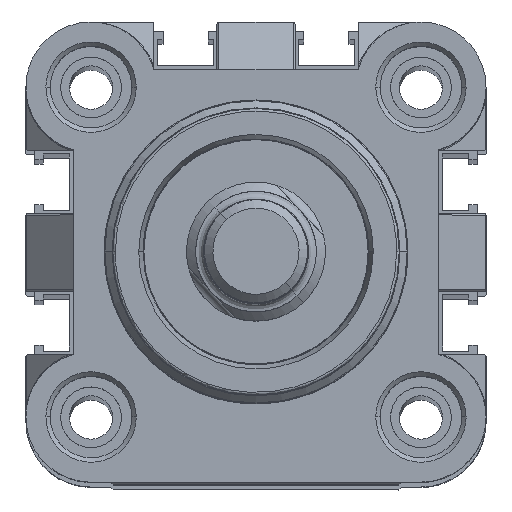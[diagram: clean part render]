
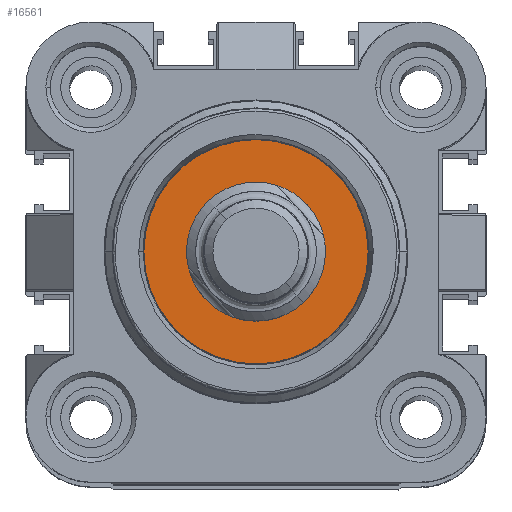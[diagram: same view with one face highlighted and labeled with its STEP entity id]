
A CAD part, top view. The second image highlights one B-rep face of the part: STEP entity #16561.
In plain terms, the highlighted planar face has unit normal (0, 0, 1) as drawn and (0, 0, -1) by its records, which use the part's own axes.
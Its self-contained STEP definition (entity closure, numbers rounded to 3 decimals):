
#807 = CARTESIAN_POINT ( 'NONE',  ( 29., 21., -18.5 ) ) ;
#1119 = DIRECTION ( 'NONE',  ( -1., 0., 0. ) ) ;
#1390 = VERTEX_POINT ( 'NONE', #18398 ) ;
#1759 = CIRCLE ( 'NONE', #10104, 8. ) ;
#2150 = AXIS2_PLACEMENT_3D ( 'NONE', #6609, #17552, #8192 ) ;
#3447 = CARTESIAN_POINT ( 'NONE',  ( 21., 21., -18.5 ) ) ;
#4223 = EDGE_CURVE ( 'NONE', #17322, #16502, #17537, .T. ) ;
#4353 = FACE_BOUND ( 'NONE', #6257, .T. ) ;
#5020 = DIRECTION ( 'NONE',  ( -1., 0., 0. ) ) ;
#5175 = ORIENTED_EDGE ( 'NONE', *, *, #18295, .T. ) ;
#5378 = DIRECTION ( 'NONE',  ( 0., 0., -1. ) ) ;
#5769 = PLANE ( 'NONE',  #19927 ) ;
#6155 = ORIENTED_EDGE ( 'NONE', *, *, #16335, .T. ) ;
#6257 = EDGE_LOOP ( 'NONE', ( #14491, #6525 ) ) ;
#6525 = ORIENTED_EDGE ( 'NONE', *, *, #4223, .F. ) ;
#6609 = CARTESIAN_POINT ( 'NONE',  ( 21., 21., -18.5 ) ) ;
#6772 = AXIS2_PLACEMENT_3D ( 'NONE', #14753, #5378, #16317 ) ;
#7362 = CARTESIAN_POINT ( 'NONE',  ( 34.073, 7.927, -18.5 ) ) ;
#7648 = VERTEX_POINT ( 'NONE', #16568 ) ;
#8192 = DIRECTION ( 'NONE',  ( -1., 0., 0. ) ) ;
#8202 = AXIS2_PLACEMENT_3D ( 'NONE', #18194, #8854, #19746 ) ;
#8238 = CIRCLE ( 'NONE', #8202, 12.918 ) ;
#8348 = EDGE_LOOP ( 'NONE', ( #6155, #5175 ) ) ;
#8854 = DIRECTION ( 'NONE',  ( 0., 0., -1. ) ) ;
#10104 = AXIS2_PLACEMENT_3D ( 'NONE', #3447, #14390, #5020 ) ;
#10537 = DIRECTION ( 'NONE',  ( 0., 0., -1. ) ) ;
#11701 = EDGE_CURVE ( 'NONE', #16502, #17322, #1759, .T. ) ;
#12701 = FACE_OUTER_BOUND ( 'NONE', #8348, .T. ) ;
#14390 = DIRECTION ( 'NONE',  ( 0., 0., -1. ) ) ;
#14491 = ORIENTED_EDGE ( 'NONE', *, *, #11701, .F. ) ;
#14753 = CARTESIAN_POINT ( 'NONE',  ( 21., 21., -18.5 ) ) ;
#16317 = DIRECTION ( 'NONE',  ( -1., 0., 0. ) ) ;
#16335 = EDGE_CURVE ( 'NONE', #7648, #1390, #19277, .T. ) ;
#16502 = VERTEX_POINT ( 'NONE', #16582 ) ;
#16561 = ADVANCED_FACE ( 'NONE', ( #4353, #12701 ), #5769, .T. ) ;
#16568 = CARTESIAN_POINT ( 'NONE',  ( 8.082, 21., -18.5 ) ) ;
#16582 = CARTESIAN_POINT ( 'NONE',  ( 13., 21., -18.5 ) ) ;
#17322 = VERTEX_POINT ( 'NONE', #807 ) ;
#17537 = CIRCLE ( 'NONE', #6772, 8. ) ;
#17552 = DIRECTION ( 'NONE',  ( 0., 0., -1. ) ) ;
#18194 = CARTESIAN_POINT ( 'NONE',  ( 21., 21., -18.5 ) ) ;
#18295 = EDGE_CURVE ( 'NONE', #1390, #7648, #8238, .T. ) ;
#18398 = CARTESIAN_POINT ( 'NONE',  ( 33.918, 21., -18.5 ) ) ;
#19277 = CIRCLE ( 'NONE', #2150, 12.918 ) ;
#19746 = DIRECTION ( 'NONE',  ( -1., 0., 0. ) ) ;
#19927 = AXIS2_PLACEMENT_3D ( 'NONE', #7362, #10537, #1119 ) ;
